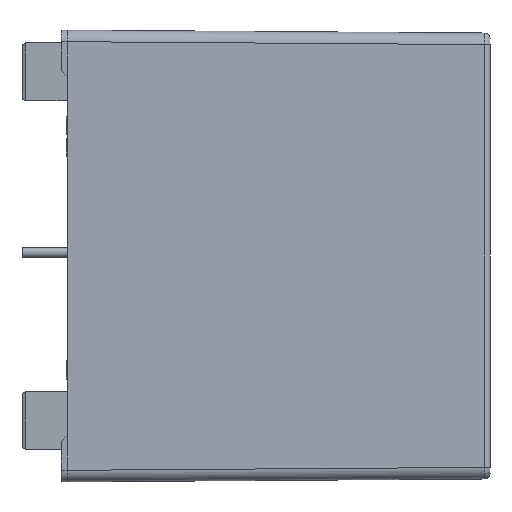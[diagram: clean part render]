
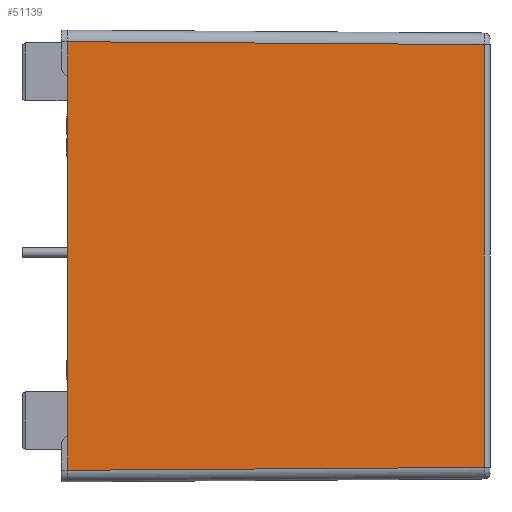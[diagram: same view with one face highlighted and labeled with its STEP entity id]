
A CAD part, left-side view. The second image highlights one B-rep face of the part: STEP entity #51139.
In plain terms, the highlighted planar face has unit normal (-1, -0.007, 0).
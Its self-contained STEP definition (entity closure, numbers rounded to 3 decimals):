
#2226=PLANE('',#54944);
#4335=LINE('',#76344,#9345);
#5564=LINE('',#83713,#10574);
#5565=LINE('',#83750,#10575);
#5566=LINE('',#83777,#10576);
#5568=LINE('',#83789,#10578);
#5571=LINE('',#83794,#10581);
#9345=VECTOR('',#60837,1000.);
#10574=VECTOR('',#64682,1000.);
#10575=VECTOR('',#64685,1000.);
#10576=VECTOR('',#64688,1000.);
#10578=VECTOR('',#64696,1000.);
#10581=VECTOR('',#64701,1000.);
#21280=ORIENTED_EDGE('',*,*,#32600,.T.);
#21281=ORIENTED_EDGE('',*,*,#32598,.T.);
#21282=ORIENTED_EDGE('',*,*,#32594,.T.);
#21283=ORIENTED_EDGE('',*,*,#32607,.T.);
#21284=ORIENTED_EDGE('',*,*,#30409,.T.);
#21285=ORIENTED_EDGE('',*,*,#32604,.T.);
#30409=EDGE_CURVE('',#37452,#37451,#4335,.T.);
#32594=EDGE_CURVE('',#38755,#38754,#5564,.T.);
#32598=EDGE_CURVE('',#38756,#38755,#5565,.T.);
#32600=EDGE_CURVE('',#38757,#38756,#5566,.T.);
#32604=EDGE_CURVE('',#37451,#38757,#5568,.T.);
#32607=EDGE_CURVE('',#38754,#37452,#5571,.T.);
#37451=VERTEX_POINT('',#76343);
#37452=VERTEX_POINT('',#76345);
#38754=VERTEX_POINT('',#83706);
#38755=VERTEX_POINT('',#83714);
#38756=VERTEX_POINT('',#83749);
#38757=VERTEX_POINT('',#83778);
#44315=EDGE_LOOP('',(#21280,#21281,#21282,#21283,#21284,#21285));
#47292=FACE_BOUND('',#44315,.T.);
#51139=ADVANCED_FACE('',(#47292),#2226,.T.);
#54944=AXIS2_PLACEMENT_3D('',#83793,#64699,#64700);
#60837=DIRECTION('',(0.,0.,-1.));
#64682=DIRECTION('',(-0.007,1.,0.007));
#64685=DIRECTION('',(0.,0.,1.));
#64688=DIRECTION('',(0.007,-1.,0.007));
#64696=DIRECTION('',(0.,0.,-1.));
#64699=DIRECTION('',(-1.,-0.007,0.));
#64700=DIRECTION('',(0.,0.,1.));
#64701=DIRECTION('',(0.,0.,-1.));
#76343=CARTESIAN_POINT('',(-10.05,0.4,-15.5));
#76344=CARTESIAN_POINT('',(-10.05,0.4,15.5));
#76345=CARTESIAN_POINT('',(-10.05,0.4,15.5));
#83706=CARTESIAN_POINT('',(-10.05,0.4,18.5));
#83713=CARTESIAN_POINT('',(-9.799,-35.603,18.249));
#83714=CARTESIAN_POINT('',(-9.799,-35.603,18.249));
#83749=CARTESIAN_POINT('',(-9.799,-35.603,-18.249));
#83750=CARTESIAN_POINT('',(-9.799,-35.603,-18.249));
#83777=CARTESIAN_POINT('',(-10.05,0.4,-18.5));
#83778=CARTESIAN_POINT('',(-10.05,0.4,-18.5));
#83789=CARTESIAN_POINT('',(-10.05,0.4,-15.5));
#83793=CARTESIAN_POINT('',(-10.05,0.4,20.205));
#83794=CARTESIAN_POINT('',(-10.05,0.4,18.5));
